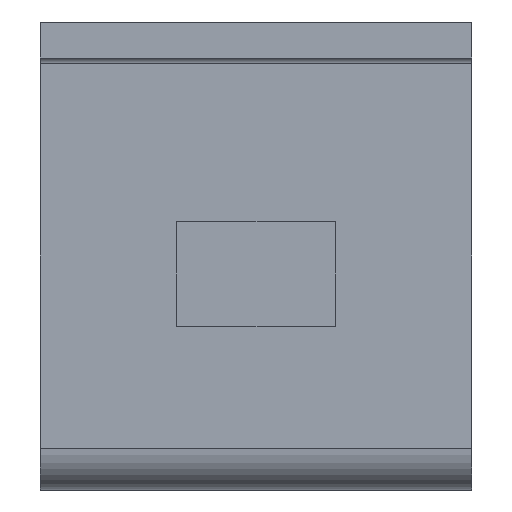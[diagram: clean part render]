
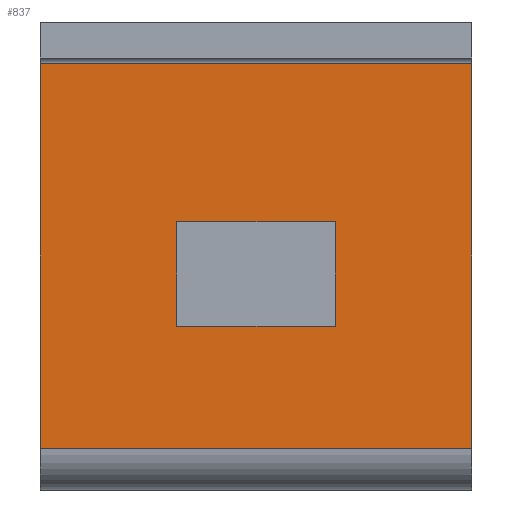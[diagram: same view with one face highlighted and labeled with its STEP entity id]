
A CAD part, left-side view. The second image highlights one B-rep face of the part: STEP entity #837.
In plain terms, the highlighted planar face has unit normal (-1, 0, 0).
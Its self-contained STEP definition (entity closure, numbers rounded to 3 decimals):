
#18=FACE_BOUND('',#153,.T.);
#96=FACE_OUTER_BOUND('',#152,.T.);
#152=EDGE_LOOP('',(#676,#677,#678,#679));
#153=EDGE_LOOP('',(#680,#681,#682,#683));
#173=LINE('',#1184,#261);
#177=LINE('',#1192,#265);
#180=LINE('',#1198,#268);
#183=LINE('',#1203,#271);
#239=LINE('',#1358,#327);
#240=LINE('',#1360,#328);
#241=LINE('',#1362,#329);
#242=LINE('',#1363,#330);
#261=VECTOR('',#938,14.5);
#265=VECTOR('',#944,22.);
#268=VECTOR('',#949,14.5);
#271=VECTOR('',#954,22.);
#327=VECTOR('',#1116,60.);
#328=VECTOR('',#1117,53.4);
#329=VECTOR('',#1118,60.);
#330=VECTOR('',#1119,53.4);
#349=VERTEX_POINT('',#1182);
#350=VERTEX_POINT('',#1183);
#353=VERTEX_POINT('',#1191);
#355=VERTEX_POINT('',#1197);
#401=VERTEX_POINT('',#1351);
#402=VERTEX_POINT('',#1357);
#403=VERTEX_POINT('',#1359);
#404=VERTEX_POINT('',#1361);
#415=EDGE_CURVE('',#349,#350,#173,.T.);
#419=EDGE_CURVE('',#353,#349,#177,.T.);
#422=EDGE_CURVE('',#355,#353,#180,.T.);
#425=EDGE_CURVE('',#350,#355,#183,.T.);
#502=EDGE_CURVE('',#402,#401,#239,.T.);
#503=EDGE_CURVE('',#403,#402,#240,.T.);
#504=EDGE_CURVE('',#403,#404,#241,.T.);
#505=EDGE_CURVE('',#401,#404,#242,.T.);
#676=ORIENTED_EDGE('',*,*,#502,.F.);
#677=ORIENTED_EDGE('',*,*,#503,.F.);
#678=ORIENTED_EDGE('',*,*,#504,.T.);
#679=ORIENTED_EDGE('',*,*,#505,.F.);
#680=ORIENTED_EDGE('',*,*,#415,.T.);
#681=ORIENTED_EDGE('',*,*,#425,.T.);
#682=ORIENTED_EDGE('',*,*,#422,.T.);
#683=ORIENTED_EDGE('',*,*,#419,.T.);
#782=PLANE('',#912);
#837=ADVANCED_FACE('',(#96,#18),#782,.F.);
#912=AXIS2_PLACEMENT_3D('',#1356,#1114,#1115);
#938=DIRECTION('',(0.,0.,1.));
#944=DIRECTION('',(0.,1.,0.));
#949=DIRECTION('',(0.,0.,-1.));
#954=DIRECTION('',(0.,-1.,0.));
#1114=DIRECTION('center_axis',(1.,0.,0.));
#1115=DIRECTION('ref_axis',(0.,0.,-1.));
#1116=DIRECTION('',(0.,1.,0.));
#1117=DIRECTION('',(0.,0.,-1.));
#1118=DIRECTION('',(0.,1.,0.));
#1119=DIRECTION('',(0.,0.,1.));
#1182=CARTESIAN_POINT('',(-32.5,11.,-42.25));
#1183=CARTESIAN_POINT('',(-32.5,11.,-27.75));
#1184=CARTESIAN_POINT('',(-32.5,11.,-65.5));
#1191=CARTESIAN_POINT('',(-32.5,-11.,-42.25));
#1192=CARTESIAN_POINT('',(-32.5,-5.5,-42.25));
#1197=CARTESIAN_POINT('',(-32.5,-11.,-27.75));
#1198=CARTESIAN_POINT('',(-32.5,-11.,-58.25));
#1203=CARTESIAN_POINT('',(-32.5,5.5,-27.75));
#1351=CARTESIAN_POINT('',(-32.5,30.,-59.2));
#1356=CARTESIAN_POINT('Origin',(-32.5,0.,
-88.75));
#1357=CARTESIAN_POINT('',(-32.5,-30.,-59.2));
#1358=CARTESIAN_POINT('',(-32.5,0.,-59.2));
#1359=CARTESIAN_POINT('',(-32.5,-30.,-5.8));
#1360=CARTESIAN_POINT('',(-32.5,-30.,-174.55));
#1361=CARTESIAN_POINT('',(-32.5,30.,-5.8));
#1362=CARTESIAN_POINT('',(-32.5,0.,-5.8));
#1363=CARTESIAN_POINT('',(-32.5,30.,28.25));
